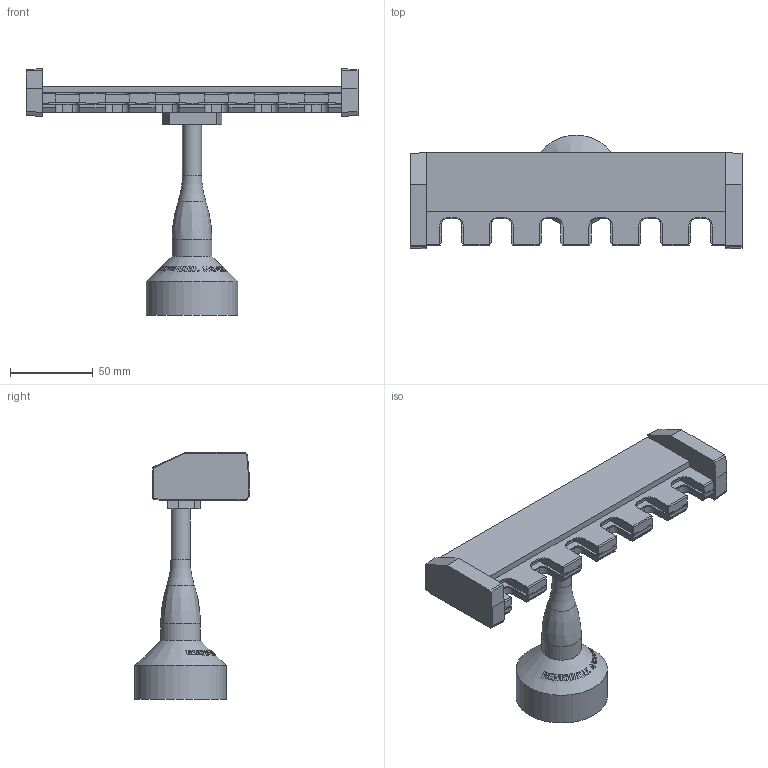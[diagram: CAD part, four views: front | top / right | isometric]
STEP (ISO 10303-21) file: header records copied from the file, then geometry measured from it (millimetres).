
FILE_DESCRIPTION(/* description */ (''),/* implementation_level */ '2;1');
FILE_NAME(/* name */ 'LA-1371-0188#-A.stp',/* time_stamp */ '2012-09-04T14:58:57+01:00',/* author */ (''),/* organization */ (''),/* preprocessor_version */ 'ST-DEVELOPER v11',/* originating_system */ 'SIEMENS PLM Software NX 7.5',/* authorisation */ '');
FILE_SCHEMA (('AUTOMOTIVE_DESIGN { 1 0 10303 214 1 1 1 1 }'));
Length unit declared in the file: millimetre
Products named in the file (1): rt133622tjt1
Bounding box: 200 x 68.75 x 148.58 mm (x, y, z)
Volume: 245376.6 mm3; surface area: 52827.3 mm2
Topology: 1 solids, 1 shells, 390 faces, 1356 edges, 947 vertices
Faces by surface type: plane 230, bspline 86, cylinder 56, cone 17, torus 1
Full cylindrical faces by diameter (mm): 11.5 x1, 23.95 x1, 55 x1
Entity records: 17430 total; most frequent: CARTESIAN_POINT 3997, ORIENTED_EDGE 2692, DIRECTION 1566, EDGE_CURVE 1346, VERTEX_POINT 943, LINE 754, VECTOR 754, B_SPLINE_CURVE_WITH_KNOTS 491
